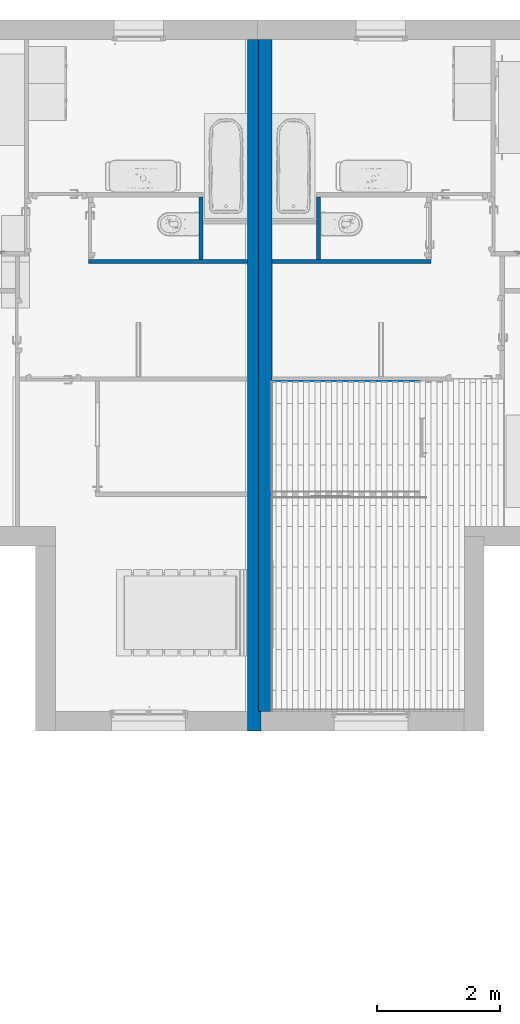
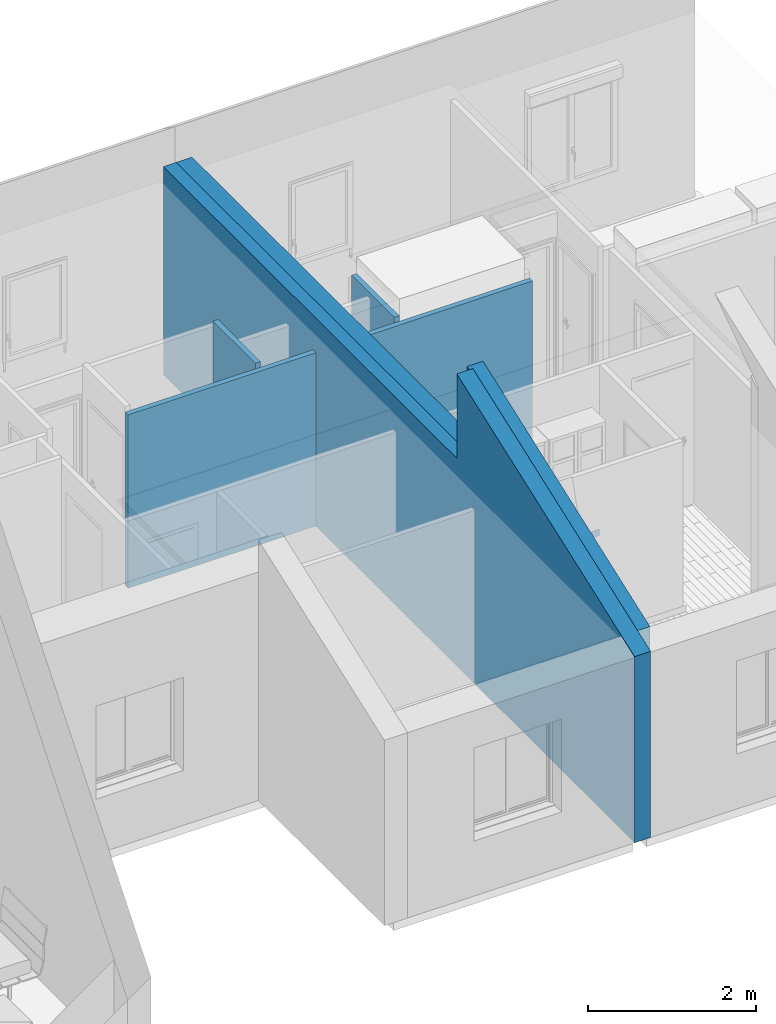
# One storey, part 34 of 61: 7 walls, 2 openings.
"""IFC2X3 building model written with IfcOpenShell, lengths in metres."""

from ifc_helpers import new_model, entity, si_unit, converted_unit, derived_unit, direction, frame, frame_2d, origin, place, context, subcontext, project, spatial, polyline, rectangle, outline, extrude, clip, halfspace, bounded_halfspace, material, layer, layer_set, layer_usage, type_object, element, save


model = new_model("IFC2X3")

# Units and contexts
model_context = context("Model", 3, precision=1e-05, world=origin(), true_north=direction((6.12303176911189e-17, 1.0)))
body_context = subcontext(model_context, "Body", "Model", "MODEL_VIEW")
ifc_project = project(units=[si_unit("LENGTHUNIT", "METRE"), si_unit("AREAUNIT", "SQUARE_METRE"), si_unit("VOLUMEUNIT", "CUBIC_METRE"), converted_unit("PLANEANGLEUNIT", "DEGREE", entity("IfcRatioMeasure", 0.0174532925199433), si_unit("PLANEANGLEUNIT", "RADIAN"), dimensions=[0, 0, 0, 0, 0, 0, 0]), si_unit("MASSUNIT", "GRAM", prefix="KILO"), derived_unit("MASSDENSITYUNIT", [(si_unit("MASSUNIT", "GRAM", prefix="KILO"), 1), (si_unit("LENGTHUNIT", "METRE"), -3)]), si_unit("TIMEUNIT", "SECOND"), si_unit("FREQUENCYUNIT", "HERTZ"), si_unit("THERMODYNAMICTEMPERATUREUNIT", "DEGREE_CELSIUS"), derived_unit("THERMALTRANSMITTANCEUNIT", [(si_unit("MASSUNIT", "GRAM", prefix="KILO"), 1), (si_unit("THERMODYNAMICTEMPERATUREUNIT", "KELVIN"), -1), (si_unit("TIMEUNIT", "SECOND"), -3)]), derived_unit("VOLUMETRICFLOWRATEUNIT", [(si_unit("LENGTHUNIT", "METRE"), 3), (si_unit("TIMEUNIT", "SECOND"), -1)]), si_unit("ELECTRICCURRENTUNIT", "AMPERE"), si_unit("ELECTRICVOLTAGEUNIT", "VOLT"), si_unit("POWERUNIT", "WATT"), si_unit("FORCEUNIT", "NEWTON", prefix="KILO"), si_unit("ILLUMINANCEUNIT", "LUX"), si_unit("LUMINOUSFLUXUNIT", "LUMEN"), si_unit("LUMINOUSINTENSITYUNIT", "CANDELA"), derived_unit("USERDEFINED", [(si_unit("MASSUNIT", "GRAM", prefix="KILO"), -1), (si_unit("LENGTHUNIT", "METRE"), -2), (si_unit("TIMEUNIT", "SECOND"), 3), (si_unit("LUMINOUSFLUXUNIT", "LUMEN"), 1)]), derived_unit("LINEARVELOCITYUNIT", [(si_unit("LENGTHUNIT", "METRE"), 1), (si_unit("TIMEUNIT", "SECOND"), -1)]), si_unit("PRESSUREUNIT", "PASCAL"), derived_unit("USERDEFINED", [(si_unit("LENGTHUNIT", "METRE"), -2), (si_unit("MASSUNIT", "GRAM", prefix="KILO"), 1), (si_unit("TIMEUNIT", "SECOND"), -2)])], contexts=[model_context])

# Site, building, storey
site_placement = place(None, origin())
site = spatial("IfcSite", under=ifc_project, at=site_placement, Name="Surface", CompositionType="ELEMENT")
building_placement = place(site_placement, origin())
building = spatial("IfcBuilding", under=site, at=building_placement, CompositionType="ELEMENT")
storey_placement = place(building_placement, frame((0.0, 0.0, 2.82)))
storey = spatial("IfcBuildingStorey", under=building, at=storey_placement, Name="ETAGE", CompositionType="ELEMENT", Elevation=2.82)

# Walls
ifc_material_1 = material(Name="Peinture - Blanc")
ifc_layer_1 = layer(ifc_material_1, 0.07)
ifc_layer_set_1 = layer_set([ifc_layer_1], Name="Mur de base:Int.  Platre 70 mm en blanc")
ifc_layer_usage_1 = layer_usage(ifc_layer_set_1, "AXIS2", "NEGATIVE", 0.035)
wall_type_1 = type_object("IfcWallType", Name="Mur de base:Int.  Platre 70 mm en blanc", PredefinedType="STANDARD", material=ifc_layer_set_1)
wall_1_placement = place(storey_placement, frame((83.9264023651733, 88.5492045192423, 0.0)))
element("IfcWallStandardCase", 1, at=wall_1_placement, inside=storey, type_object=wall_type_1, material=ifc_layer_usage_1, Name="Mur de base:Int.  Platre 70 mm en blanc", ObjectType="Mur de base:Int.  Platre 70 mm en blanc", context=body_context, shape_type="SweptSolid", body=[
    extrude(rectangle(XDim=2.58204916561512, YDim=0.0699999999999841, at=frame_2d((1.29102458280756, 0.0), x_axis=(-1.0, 0.0))), origin(), (0.0, 0.0, 1.0), 2.52),
])
ifc_layer_usage_2 = layer_usage(ifc_layer_set_1, "AXIS2", "NEGATIVE", 0.035)
wall_2_placement = place(storey_placement, frame((84.6817857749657, 88.5842045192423, 0.0), z_axis=(0.0, 0.0, 1.0), x_axis=(0.0, 1.0, 0.0)))
element("IfcWallStandardCase", 2, at=wall_2_placement, inside=storey, type_object=wall_type_1, material=ifc_layer_usage_2, Name="Mur de base:Int.  Platre 70 mm en blanc", ObjectType="Mur de base:Int.  Platre 70 mm en blanc", context=body_context, shape_type="SweptSolid", body=[
    extrude(rectangle(XDim=1.01331944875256, YDim=0.0699999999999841, at=frame_2d((0.506659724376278, 0.0), x_axis=(-1.0, 0.0))), origin(), (0.0, 0.0, 1.0), 2.6),
])
ifc_layer_usage_3 = layer_usage(ifc_layer_set_1, "AXIS2", "POSITIVE", -0.035)
wall_3_placement = place(storey_placement, frame((83.5314023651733, 88.5492045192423, 0.0), z_axis=(0.0, 0.0, 1.0), x_axis=(-1.0, 0.0, 0.0)))
element("IfcWallStandardCase", 3, at=wall_3_placement, inside=storey, type_object=wall_type_1, material=ifc_layer_usage_3, Name="Mur de base:Int.  Platre 70 mm en blanc", ObjectType="Mur de base:Int.  Platre 70 mm en blanc", context=body_context, shape_type="SweptSolid", body=[
    extrude(rectangle(XDim=2.58204916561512, YDim=0.0699999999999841, at=frame_2d((1.29102458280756, 0.0), x_axis=(-1.0, 0.0))), origin(), (0.0, 0.0, 1.0), 2.52),
])
ifc_layer_usage_4 = layer_usage(ifc_layer_set_1, "AXIS2", "POSITIVE", -0.035)
wall_4_placement = place(storey_placement, frame((82.7760189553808, 88.5842045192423, 0.0), z_axis=(0.0, 0.0, 1.0), x_axis=(0.0, 1.0, 0.0)))
element("IfcWallStandardCase", 4, at=wall_4_placement, inside=storey, type_object=wall_type_1, material=ifc_layer_usage_4, Name="Mur de base:Int.  Platre 70 mm en blanc", ObjectType="Mur de base:Int.  Platre 70 mm en blanc", context=body_context, shape_type="SweptSolid", body=[
    extrude(rectangle(XDim=1.01331944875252, YDim=0.0699999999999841, at=frame_2d((0.506659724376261, 0.0), x_axis=(-1.0, 0.0))), origin(), (0.0, 0.0, 1.0), 2.6),
])

# Wall, opening
ifc_material_2 = material(Name="Enduit blanc cassé2")
ifc_layer_2 = layer(ifc_material_2, 0.02)
ifc_material_3 = material(Name="Parpaing")
ifc_layer_3 = layer(ifc_material_3, 0.1)
ifc_material_4 = material(Name="Isolant")
ifc_layer_4 = layer(ifc_material_4, 0.1)
ifc_layer_set_2 = layer_set([ifc_layer_2, ifc_layer_3, ifc_layer_4], Name="Mur de base:MITOYEN. Parpaing 10 + Isolant 10+ PLACO 2")
ifc_layer_usage_5 = layer_usage(ifc_layer_set_2, "AXIS2", "NEGATIVE", 0.11)
wall_type_2 = type_object("IfcWallType", Name="Mur de base:MITOYEN. Parpaing 10 + Isolant 10+ PLACO 2", PredefinedType="STANDARD", material=ifc_layer_set_2)
wall_5_placement = place(storey_placement, frame((83.8164023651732, 81.2475239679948, 0.0), z_axis=(0.0, 0.0, 1.0), x_axis=(0.0, 1.0, 0.0)))
wall_5 = element("IfcWallStandardCase", 5, at=wall_5_placement, inside=storey, type_object=wall_type_2, material=ifc_layer_usage_5, Name="Mur de base:MITOYEN. Parpaing 10 + Isolant 10+ PLACO 2", ObjectType="Mur de base:MITOYEN. Parpaing 10 + Isolant 10+ PLACO 2", context=body_context, shape_type="Clipping", body=[
    clip(clip(clip(clip(extrude(rectangle(XDim=10.9, YDim=0.219999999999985, at=frame_2d((5.45000000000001, 4.71844785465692e-16), x_axis=(-1.0, 0.0))), origin(), (0.0, 0.0, 1.0), 6.30988618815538), bounded_halfspace(frame((6.95000000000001, -0.110000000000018, 6.30988618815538), z_axis=(0.573576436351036, 0.0, 0.819152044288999), x_axis=(0.0, 1.0, 0.0)), False, frame((6.95000000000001, -0.110000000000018, 6.30988618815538)), polyline([(0.0, 0.0), (3.95, 0.0), (3.95, 0.157499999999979), (3.95, 0.220000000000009), (0.0, 0.220000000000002), (0.0, 0.0)]))), bounded_halfspace(frame((3.97464753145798, -0.110000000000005, 4.22652196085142), z_axis=(-0.573576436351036, 0.0, 0.819152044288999), x_axis=(0.0, -1.0, 0.0)), False, frame((3.97464753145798, -0.110000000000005, 4.22652196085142)), polyline([(0.0, 0.0), (2.97535246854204, 0.0), (2.97535246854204, 0.220000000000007), (0.0, 0.220000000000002), (0.0, 0.0)]))), halfspace(frame((0.0, -0.110000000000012, 2.80992330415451), z_axis=(-0.342020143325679, 0.0, 0.939692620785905), x_axis=(0.0, 1.0, 0.0)), False)), halfspace(frame((11.06, 0.0, 3.02), z_axis=(0.171927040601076, 0.0, 0.98510968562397), x_axis=(0.0, 1.0, 0.0)), False)),
])
opening_1_placement = place(wall_5_placement, origin())
element("IfcOpeningElement", 6, at=opening_1_placement, cuts=wall_5, Name="Mur de base:MITOYEN. Parpaing 10 + Isolant 10+ PLACO 2", ObjectType="Opening", context=body_context, shape_type="SweptSolid", body=[
    extrude(outline(polyline([(-4.72409988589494, -0.406054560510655), (2.46835042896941, -0.406054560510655), (2.25574945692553, 0.812109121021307), (-4.72409988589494, -0.406054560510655)])), frame((6.33643168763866, 0.109999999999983, 3.43219223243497), z_axis=(0.0, -1.0, 0.0), x_axis=(-0.98510968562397, 0.0, 0.171927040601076)), (0.0, 0.0, 1.0), 0.22),
])

ifc_layer_usage_6 = layer_usage(ifc_layer_set_2, "AXIS2", "POSITIVE", -0.11)
wall_6_placement = place(storey_placement, frame((83.6414023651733, 80.9275239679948, 0.0), z_axis=(0.0, 0.0, 1.0), x_axis=(0.0, 1.0, 0.0)))
wall_6 = element("IfcWallStandardCase", 7, at=wall_6_placement, inside=storey, type_object=wall_type_2, material=ifc_layer_usage_6, Name="Mur de base:MITOYEN. Parpaing 10 + Isolant 10+ PLACO 2", ObjectType="Mur de base:MITOYEN. Parpaing 10 + Isolant 10+ PLACO 2", context=body_context, shape_type="Clipping", body=[
    clip(clip(clip(clip(extrude(rectangle(XDim=11.22, YDim=0.219999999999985, at=frame_2d((5.61000000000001, -7.35522753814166e-16), x_axis=(-1.0, 0.0))), origin(), (0.0, 0.0, 1.0), 6.30988618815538), bounded_halfspace(frame((7.27000000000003, -0.110000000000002, 6.30988618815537), z_axis=(0.573576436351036, 0.0, 0.819152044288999), x_axis=(0.0, 1.0, 0.0)), False, frame((7.27000000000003, -0.110000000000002, 6.30988618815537)), polyline([(0.0, 0.0), (3.94999999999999, 0.0), (3.94999999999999, 0.0625000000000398), (3.94999999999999, 0.219999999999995), (0.0, 0.220000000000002), (0.0, 0.0)]))), bounded_halfspace(frame((4.23494290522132, -0.110000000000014, 4.18471633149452), z_axis=(-0.573576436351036, 0.0, 0.819152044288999), x_axis=(0.0, -1.0, 0.0)), False, frame((4.23494290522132, -0.110000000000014, 4.18471633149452)), polyline([(0.0, 0.0), (3.03505709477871, 0.0), (3.03505709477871, 0.219999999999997), (0.0, 0.220000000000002), (0.0, 0.0)]))), halfspace(frame((0.0, -0.110000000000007, 2.70436189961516), z_axis=(-0.342020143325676, 0.0, 0.939692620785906), x_axis=(0.0, 1.0, 0.0)), False)), halfspace(frame((11.38, 0.0, 3.02), z_axis=(0.169082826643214, 0.0, 0.985601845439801), x_axis=(0.0, 1.0, 0.0)), False)),
])
opening_2_placement = place(wall_6_placement, origin())
element("IfcOpeningElement", 8, at=opening_2_placement, cuts=wall_6, Name="Mur de base:MITOYEN. Parpaing 10 + Isolant 10+ PLACO 2", ObjectType="Opening", context=body_context, shape_type="SweptSolid", body=[
    extrude(outline(polyline([(-4.76387234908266, -0.402702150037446), (2.48556323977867, -0.402702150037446), (2.27830910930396, 0.805404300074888), (-4.76387234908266, -0.402702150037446)])), frame((6.61662860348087, 0.110000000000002, 3.42858502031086), z_axis=(0.0, -1.0, 0.0), x_axis=(-0.985601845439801, 0.0, 0.169082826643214)), (0.0, 0.0, 1.0), 0.22),
])

# Wall
ifc_material_5 = material(Name="biorox 2")
ifc_layer_5 = layer(ifc_material_5, 0.002)
ifc_layer_set_3 = layer_set([ifc_layer_5], Name="Mur de base:peinture biorox 2")
ifc_layer_usage_7 = layer_usage(ifc_layer_set_3, "AXIS2", "NEGATIVE", 0.001)
wall_type_3 = type_object("IfcWallType", Name="Mur de base:peinture biorox 2", PredefinedType="STANDARD", material=ifc_layer_set_3)
wall_7_placement = place(storey_placement, frame((83.9310898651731, 86.6061045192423, 0.0400000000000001)))
element("IfcWallStandardCase", 9, at=wall_7_placement, inside=storey, type_object=wall_type_3, material=ifc_layer_usage_7, Name="Mur de base:peinture biorox 2", ObjectType="Mur de base:peinture biorox 2", context=body_context, shape_type="Clipping", body=[
    clip(extrude(rectangle(XDim=2.39781250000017, YDim=0.00199999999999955, at=frame_2d((1.19890625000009, 0.0), x_axis=(-1.0, 0.0))), origin(), (0.0, 0.0, 1.0), 0.0997627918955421), halfspace(frame((0.0, -0.000999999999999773, 0.0997627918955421), z_axis=(0.0, 0.0, 1.0), x_axis=(0.0, 1.0, 0.0)), False)),
])

save(model, "model.ifc")
